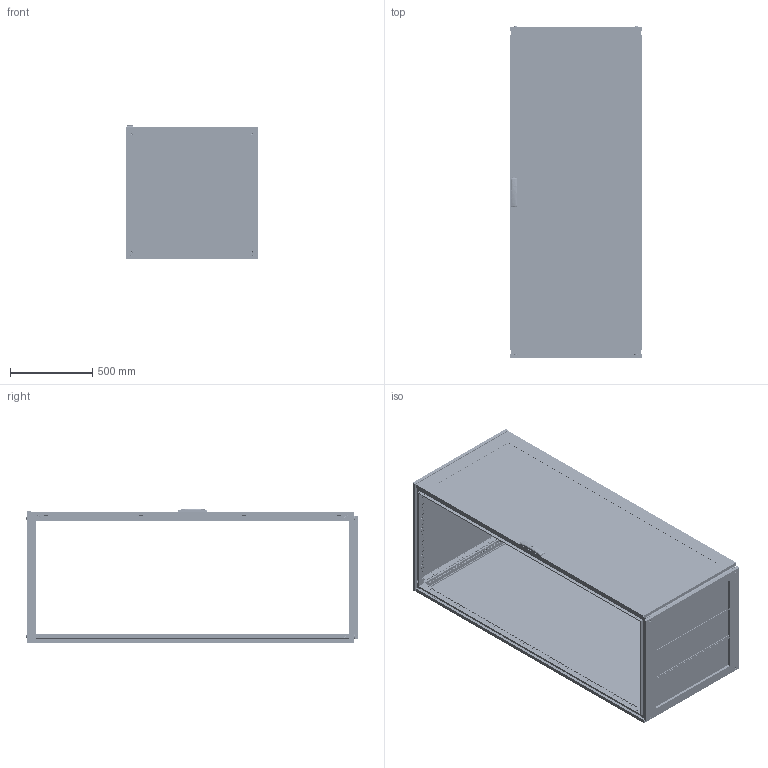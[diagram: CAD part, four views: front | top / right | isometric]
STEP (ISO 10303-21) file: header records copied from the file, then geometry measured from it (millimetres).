
FILE_DESCRIPTION (( 'STEP AP203' ), '1' );
FILE_NAME ('R5CQEN2088AX.STEP', '2025-05-07T12:10:37', ( '' ), ( '' ), 'SwSTEP 2.0', 'SolidWorks 2022', '' );
FILE_SCHEMA (( 'CONFIG_CONTROL_DESIGN' ));
Length unit declared in the file: millimetre
Products named in the file (65): RB.2456.00.00.0 simple_-03; RB.2528.00.00.0 simple_-05; RB.0562.01.00.0 СБ simple_-16; M6x10 DIN 7500 M Torx cl.5.8 Zinc_straight; RB.2686.00.00.0 simple; RB.1633.00.02.0 simple_-03; RB.0528.00.01.0 simple_-05; RB.2499.01.00.0 СБ simple_-20; RB.2499.00.00.0 СБ simple_-21; RB.2685.00.00.0 simple_-03; M6x15 Erickson cl.4,8 Zinc; PF 7x14 CRE simple_2000x0800; RB.0054.01.01.0 simple_-24; RB.2696.00.00.0 simple; R5NCRE-Assem simple_R5NCRE2080; 7 DIN 6799 Zinc; RB.2968.00.00.0 simple; RB.2680.00.02.0 simple; RB.2680.00.00.0 СБ simple; AC00C446-R; RB.1867.01.00.0 СБ simple_-29; R5NKMN - Assem simple_R5NKMN20 (800х800); M12x16 ISO 7380-1 HX cl.4,8 Zinc_straight; 7 DIN 6799 Zinc simple; RB.2455.00.00.0 simple_-03; RB.2680.00.01.0 simple; RB.0528.04.00.0 СБ simple; ATOS Traction guide ILY03.35; RB.1633.00.01.0 simple_-03; RB.0528.04.01.0 simple; TPA.08.0084.00.00.0 simple; M6 MGR-MKO-0625 simple_Thread; RB.2052.00.00.0 СБ simple_-24; TPA.08.0139.00.03.0; RB.0562.00.00.0 СБ simple_-16; M6x10 DIN 7500 E HX cl.5.8 Zinc_straight; RB.2755.00.00.0 СБ simple_-21; TPA.08.0139.00.01.0 simple; М6х12 A5100231_straight; Pressing stud FH-M6-12_M6x12mm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
Assembly tree (173 placements, depth 5):
  R5CQEN2088AX
    R5NCPTE - Assem simple_R5NCPTE2080
      RB.0562.00.00.0 СБ simple_-16
        RB.0562.01.00.0 СБ simple_-16
          RB.0562.01.01.0 simple_-16
          М6х12 A5100231_straight  x7
          RB.2702.00.00.0 simple  x4
          PF 7,5x15 CPE simple_2000x0800
          Glass CPTE_2000x0800
          Glue CPTE simple_2000x0800
        Square cap 20x20 simple  x2
        M6x15 Erickson cl.4,8 Zinc  x2
        RB.0528.00.01.0 simple_-05  x2
        ATOS Traction guide ILY03.35  x4
        RB.2357.00.00.0 simple_-05
        RB.2680.00.00.0 СБ simple
          TPA.08.0139.00.01.0 simple
          RB.2680.00.01.0 simple
          RB.2680.00.02.0 simple  x2
        TPA.08.0139.00.03.0  x2
        M6 DIN 985 cl.6,0 Zinc_straight  x4
        4,0x16 F Torx Zinc (ART 88200)_thread  x2
        RB.0528.04.00.0 СБ simple  x2
          RB.0528.04.01.0 simple
          Pressing stud FH-M6-12_M6x12mm
      M6x10 DIN 912 HX cl.8,8 Zinc_straight  x8
      4.8x13 DIN 7981 PH Zinc_straight
      7 DIN 6799 Zinc simple  x4
      RB.2968.00.00.0 simple  x4
      RB.2969.00.00.0 СБ simple  x4
        RB.2969.00.01.0 simple
        Pin 4x16 DIN 7 AISI 303 (A1) simple
        M6 MGR-MKO-0625 simple_Thread
      AC00C446-R
      RB.2696.00.00.0 simple  x4
      7 DIN 6799 Zinc  x4
    R5NCRE-Assem simple_R5NCRE2080
      RB.2052.00.00.0 СБ simple_-24
        RB.2052.01.00.0 СБ simple_-24
          RB.0054.01.01.0 simple_-24
          М6х12 A5100231_straight  x4
        PF 7x14 CRE simple_2000x0800
      RB.2172.00.00.1 simple  x8
      M6x10 DIN 7500 E HX cl.5.8 Zinc_straight  x8
      M6x10 DIN 7500 M Torx cl.5.8 Zinc_straight  x8
    R5NKMN - Assem simple_R5NKMN20 (800х800)
      RB.2528.00.00.0 simple_-05  x4
    R5NKTB - Assem simple_H=2000 R5NKTB88
      RB.2499.00.00.0 СБ simple_-21
        RB.2499.01.00.0 СБ simple_-20
          RB.1633.00.01.0 simple_-03  x2
          RB.1633.00.02.0 simple_-03  x2
          PF 5x10 KTB simple_800x800
        RB.2457.00.00.0 СБ simple_-21
          RB.2455.00.00.0 simple_-03  x2
          RB.2456.00.00.0 simple_-03  x2
          TPA.08.0084.00.00.0 simple  x2
          TPA.08.0083.00.00.0 simple  x2
          M8x12 AC00C476 cl.8,8 Zinc_stright  x4
        RB.1957.00.00.0 simple_-11  x3
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Bounding box: 800 x 2013.3 x 814.79 mm (x, y, z)
Volume: 18982849.4 mm3; surface area: 16746855.1 mm2
Topology: 176 solids, 192 shells, 23969 faces, 68203 edges, 44971 vertices
Faces by surface type: plane 13235, cylinder 9193, cone 704, bspline 435, torus 368, sphere 34
Entity records: 238073 total; most frequent: CARTESIAN_POINT 57755, ORIENTED_EDGE 35842, DIRECTION 34355, EDGE_CURVE 17947, VERTEX_POINT 11890, AXIS2_PLACEMENT_3D 11561, LINE 11233, VECTOR 11233
